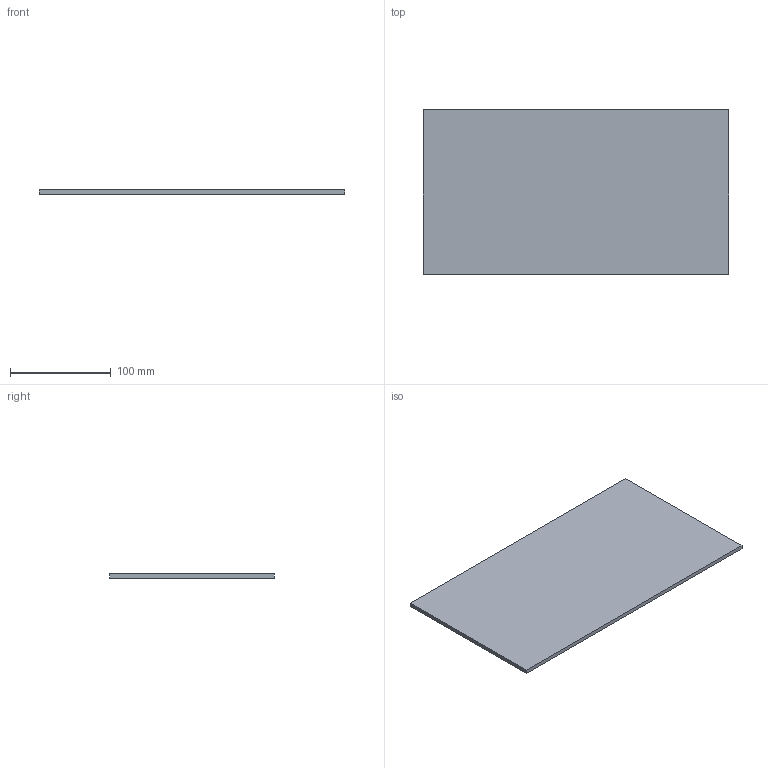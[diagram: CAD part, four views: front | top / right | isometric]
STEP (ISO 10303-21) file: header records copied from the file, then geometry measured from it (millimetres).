
FILE_DESCRIPTION (( 'STEP AP203' ), '1' );
FILE_NAME ('complément_isolation_porte.STEP', '2026-06-24T07:29:50', ( '' ), ( '' ), 'SwSTEP 2.0', 'SolidWorks 2024', '' );
FILE_SCHEMA (( 'CONFIG_CONTROL_DESIGN' ));
Length unit declared in the file: millimetre
Products named in the file (1): complément_isolation_porte
Bounding box: 303 x 163 x 4 mm (x, y, z)
Volume: 197556 mm3; surface area: 102506 mm2
Topology: 1 solids, 1 shells, 6 faces, 12 edges, 8 vertices
Faces by surface type: plane 6
Entity records: 231 total; most frequent: CARTESIAN_POINT 27, DIRECTION 26, ORIENTED_EDGE 24, EDGE_CURVE 12, LINE 12, VECTOR 12, PERSON_AND_ORGANIZATION 8, VERTEX_POINT 8
